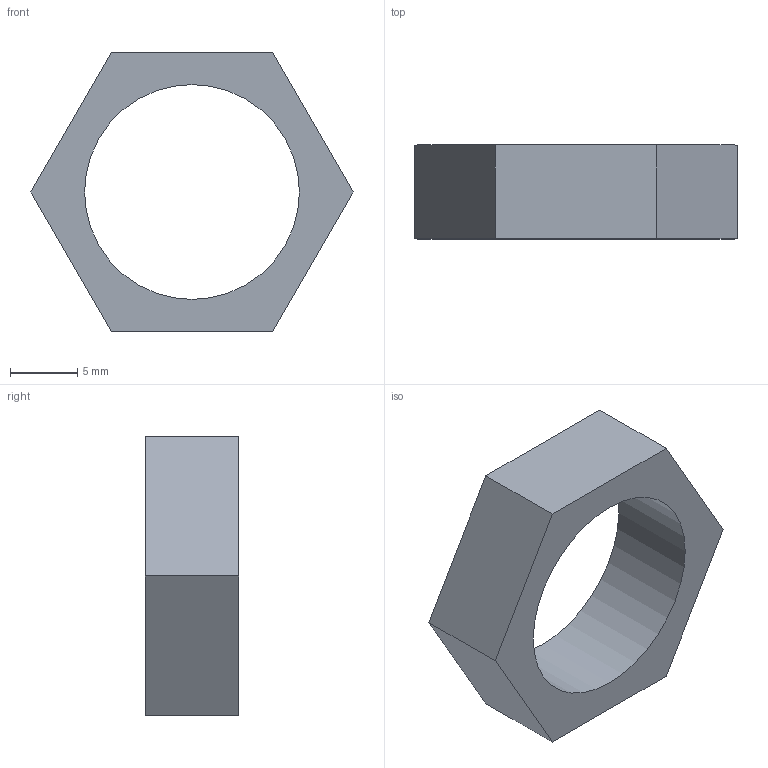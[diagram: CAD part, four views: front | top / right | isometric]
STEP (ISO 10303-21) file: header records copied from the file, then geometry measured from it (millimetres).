
FILE_DESCRIPTION(('Open CASCADE Model'),'2;1');
FILE_NAME('Open CASCADE Shape Model','2026-10-20T13:19:34',('Author'),( 'Open CASCADE'),'Open CASCADE STEP processor 7.9','Open CASCADE 7.9' ,'Unknown');
FILE_SCHEMA(('AUTOMOTIVE_DESIGN { 1 0 10303 214 1 1 1 1 }'));
Length unit declared in the file: millimetre
Products named in the file (1): Open CASCADE STEP translator 7.9 13
Bounding box: 24 x 7 x 20.78 mm (x, y, z)
Volume: 1211.4 mm3; surface area: 1202 mm2
Topology: 1 solids, 1 shells, 9 faces, 21 edges, 14 vertices
Faces by surface type: plane 8, cylinder 1
Full cylindrical faces by diameter (mm): 16 x1
Entity records: 550 total; most frequent: CARTESIAN_POINT 99, DIRECTION 83, LINE 59, VECTOR 59, ORIENTED_EDGE 42, PCURVE 42, DEFINITIONAL_REPRESENTATION 42, EDGE_CURVE 21
